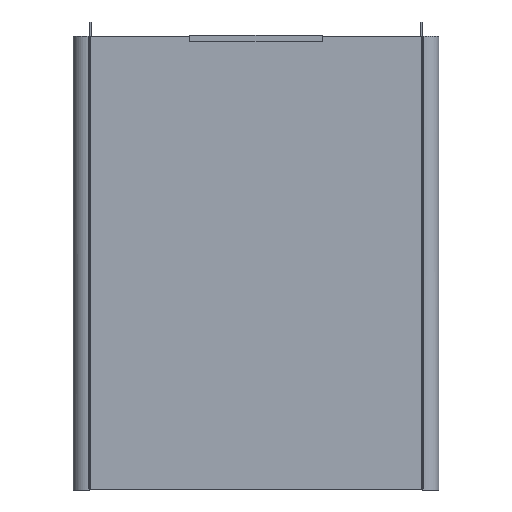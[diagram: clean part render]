
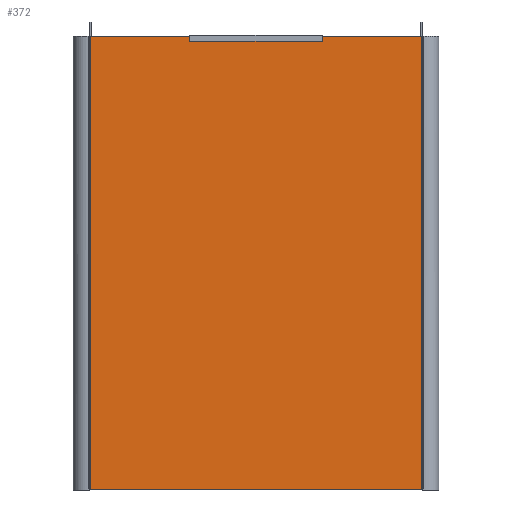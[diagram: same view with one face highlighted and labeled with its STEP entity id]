
A CAD part, front view. The second image highlights one B-rep face of the part: STEP entity #372.
In plain terms, the highlighted planar face has unit normal (0, -1, 0).
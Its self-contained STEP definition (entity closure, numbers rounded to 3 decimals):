
#372=ADVANCED_FACE('',(#467),#1665,.T.);
#467=FACE_OUTER_BOUND('',#570,.T.);
#570=EDGE_LOOP('',(#1024,#1025,#1026,#1027));
#1024=ORIENTED_EDGE('',*,*,#1268,.T.);
#1025=ORIENTED_EDGE('',*,*,#1269,.T.);
#1026=ORIENTED_EDGE('',*,*,#1270,.T.);
#1027=ORIENTED_EDGE('',*,*,#1266,.F.);
#1266=EDGE_CURVE('',#1592,#1593,#1423,.T.);
#1268=EDGE_CURVE('',#1592,#1594,#1425,.T.);
#1269=EDGE_CURVE('',#1594,#1595,#1426,.T.);
#1270=EDGE_CURVE('',#1595,#1593,#1427,.T.);
#1423=B_SPLINE_CURVE_WITH_KNOTS('',1,(#3163,#3164),.UNSPECIFIED.,.F.,.F.,
(2,2),(0.,375.),.UNSPECIFIED.);
#1425=B_SPLINE_CURVE_WITH_KNOTS('',1,(#3167,#3168),.UNSPECIFIED.,.F.,.F.,
(2,2),(-514.,0.),.UNSPECIFIED.);
#1426=B_SPLINE_CURVE_WITH_KNOTS('',1,(#3169,#3170),.UNSPECIFIED.,.F.,.F.,
(2,2),(0.,375.),.UNSPECIFIED.);
#1427=B_SPLINE_CURVE_WITH_KNOTS('',1,(#3171,#3172),.UNSPECIFIED.,.F.,.F.,
(2,2),(-514.,0.),.UNSPECIFIED.);
#1592=VERTEX_POINT('',#3149);
#1593=VERTEX_POINT('',#3150);
#1594=VERTEX_POINT('',#3151);
#1595=VERTEX_POINT('',#3152);
#1665=PLANE('',#1963);
#1963=AXIS2_PLACEMENT_3D('',#3141,#2090,$);
#2090=DIRECTION('',(0.,-1.,0.));
#3141=CARTESIAN_POINT('',(-225.12,-160.75,566.52));
#3149=CARTESIAN_POINT('',(187.5,-160.75,1.));
#3150=CARTESIAN_POINT('',(-187.5,-160.75,1.));
#3151=CARTESIAN_POINT('',(187.5,-160.75,515.));
#3152=CARTESIAN_POINT('',(-187.5,-160.75,515.));
#3163=CARTESIAN_POINT('',(187.5,-160.75,1.));
#3164=CARTESIAN_POINT('',(-187.5,-160.75,1.));
#3167=CARTESIAN_POINT('',(187.5,-160.75,1.));
#3168=CARTESIAN_POINT('',(187.5,-160.75,515.));
#3169=CARTESIAN_POINT('',(187.5,-160.75,515.));
#3170=CARTESIAN_POINT('',(-187.5,-160.75,515.));
#3171=CARTESIAN_POINT('',(-187.5,-160.75,515.));
#3172=CARTESIAN_POINT('',(-187.5,-160.75,1.));
